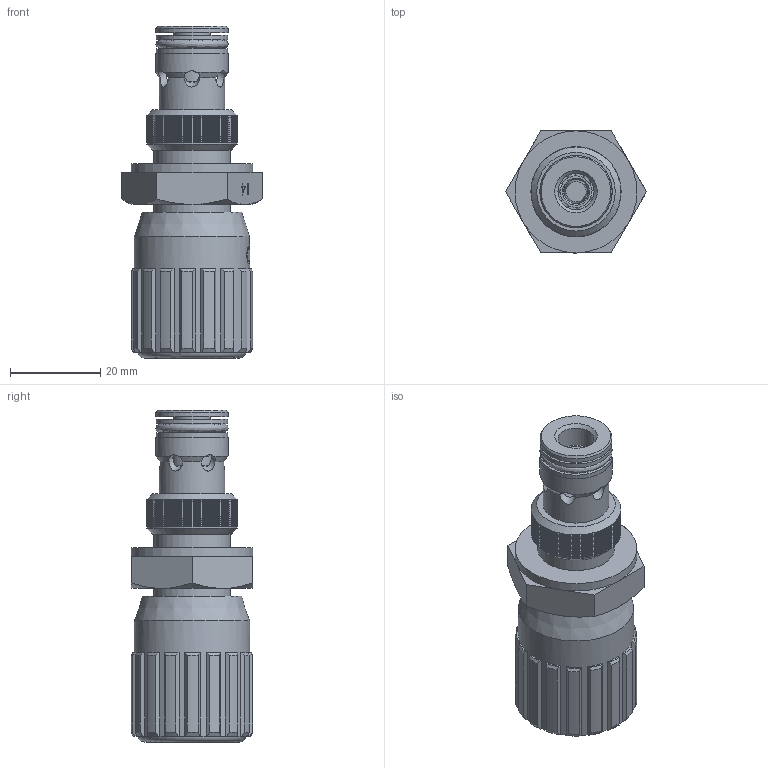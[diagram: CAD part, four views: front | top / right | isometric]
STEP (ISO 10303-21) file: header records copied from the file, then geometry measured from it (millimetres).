
FILE_DESCRIPTION (( 'STEP AP214' ), '1' );
FILE_NAME ('FT2267_5-14.STEP', '2015-04-08T14:14:03', ( 'cperuzzotti' ), ( 'Hewlett-Packard Company' ), 'SwSTEP 2.0', 'SolidWorks 2014', '' );
FILE_SCHEMA (( 'AUTOMOTIVE_DESIGN' ));
Length unit declared in the file: millimetre
Products named in the file (1): FT2267_5-14
Bounding box: 31.18 x 27 x 73.5 mm (x, y, z)
Surface area: 8978.1 mm2 (no closed solid volume)
Topology: 0 solids, 13 shells, 482 faces, 1443 edges, 953 vertices
Faces by surface type: plane 285, cone 85, cylinder 80, bspline 31, torus 1
Full cylindrical faces by diameter (mm): 0.882 x1, 2 x6, 3.5 x6, 4 x1, 8 x1, 9.5 x1, 10.8 x1, 11.5 x1, 14.5 x1, 15.91 x2, 16 x2, 17 x2, 20 x14, 25.5 x1, 27 x1
Entity records: 24017 total; most frequent: CARTESIAN_POINT 6592, ORIENTED_EDGE 2438, DIRECTION 2294, EDGE_CURVE 1339, VERTEX_POINT 932, LINE 846, VECTOR 846, AXIS2_PLACEMENT_3D 724
